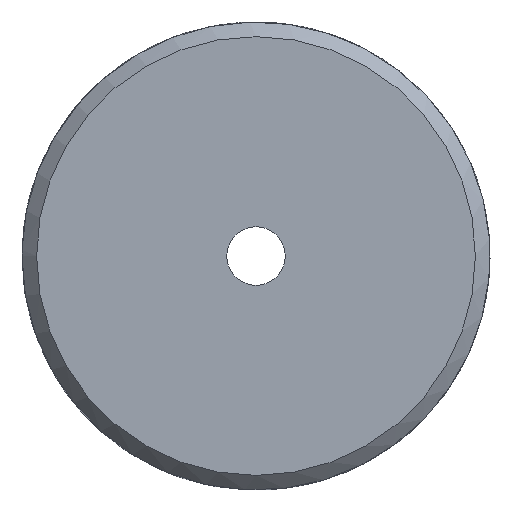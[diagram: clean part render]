
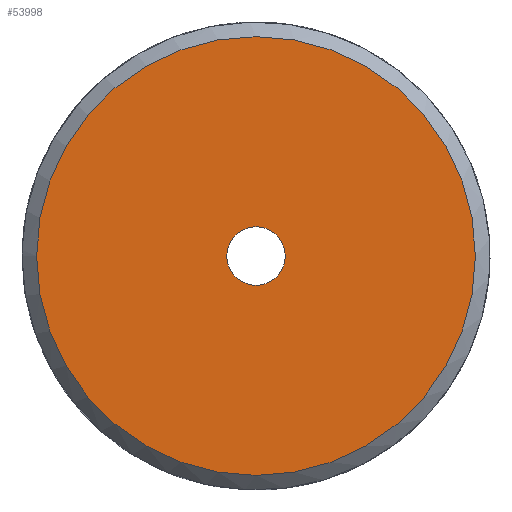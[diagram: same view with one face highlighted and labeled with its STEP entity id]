
A CAD part, left-side view. The second image highlights one B-rep face of the part: STEP entity #53998.
In plain terms, the highlighted planar face has unit normal (-1, 0, 0).
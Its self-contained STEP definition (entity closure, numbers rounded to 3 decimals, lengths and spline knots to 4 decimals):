
#15641=PLANE('',#53042);
#16908=ORIENTED_EDGE('',*,*,#21497,.F.);
#16909=ORIENTED_EDGE('',*,*,#21498,.F.);
#19962=CIRCLE('',#53041,7.5);
#19963=CIRCLE('',#53043,1.);
#20425=VERTEX_POINT('',#26163);
#20426=VERTEX_POINT('',#26166);
#21497=EDGE_CURVE('',#20425,#20425,#19962,.T.);
#21498=EDGE_CURVE('',#20426,#20426,#19963,.T.);
#23013=EDGE_LOOP('',(#16908));
#23014=EDGE_LOOP('',(#16909));
#23488=FACE_BOUND('',#23013,.T.);
#23489=FACE_BOUND('',#23014,.T.);
#23977=DIRECTION('',(1.,0.,0.));
#23978=DIRECTION('',(0.,0.,-7.5));
#23979=DIRECTION('',(-1.,0.,0.));
#23980=DIRECTION('',(0.,1.,0.));
#23981=DIRECTION('',(-1.,0.,0.));
#23982=DIRECTION('',(0.,0.,1.));
#26163=CARTESIAN_POINT('',(24.9798,175.1992,-7.5));
#26164=CARTESIAN_POINT('',(24.9798,175.1992,0.));
#26165=CARTESIAN_POINT('',(24.9798,175.1992,-7.5));
#26166=CARTESIAN_POINT('',(24.9798,175.1992,1.));
#26167=CARTESIAN_POINT('',(24.9798,175.1992,0.));
#53041=AXIS2_PLACEMENT_3D('',#26164,#23977,#23978);
#53042=AXIS2_PLACEMENT_3D('',#26165,#23979,#23980);
#53043=AXIS2_PLACEMENT_3D('',#26167,#23981,#23982);
#53998=ADVANCED_FACE('',(#23488,#23489),#15641,.T.);
